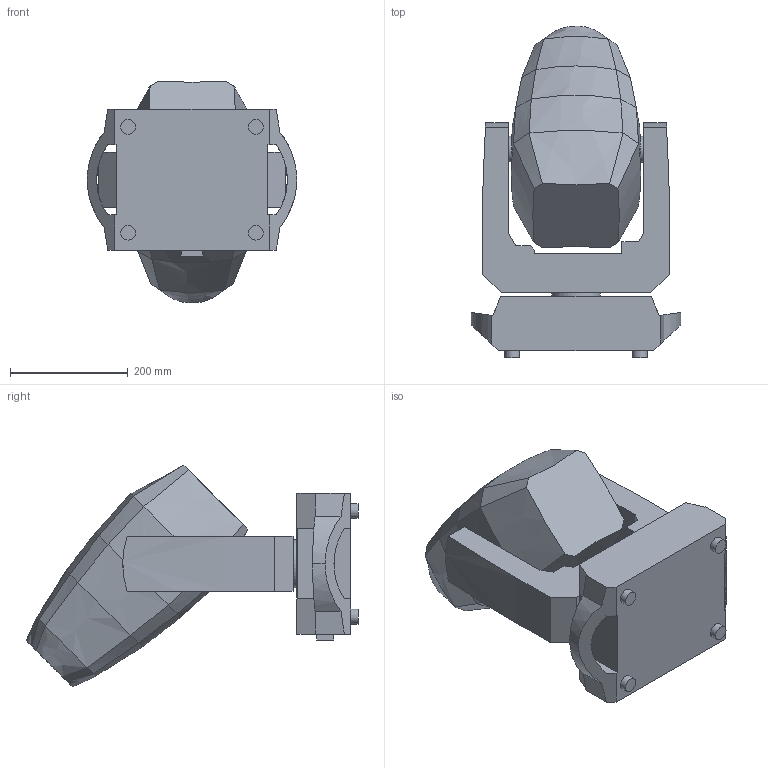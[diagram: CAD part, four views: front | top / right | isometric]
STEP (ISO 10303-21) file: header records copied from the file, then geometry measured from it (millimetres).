
FILE_DESCRIPTION(/* description */ (''),/* implementation_level */ '2;1');
FILE_NAME(/* name */ 'Rogue R3E Spot_45_3D.stp',/* time_stamp */ '2024-04-09T17:05:52-04:00',/* author */ ('dgooch'),/* organization */ (''),/* preprocessor_version */ 'ST-DEVELOPER v20',/* originating_system */ 'Autodesk Inventor 2024',/* authorisation */ '');
FILE_SCHEMA (('AUTOMOTIVE_DESIGN { 1 0 10303 214 3 1 1 }'));
Length unit declared in the file: millimetre
Products named in the file (4): Rogue R3E Spot_0; Base (1); Arm (1); Head (1)
Assembly tree (3 placements, depth 2):
  Rogue R3E Spot_0
    Base (1)
    Arm (1)
    Head (1)
Bounding box: 356 x 564.46 x 377.43 mm (x, y, z)
Volume: 22567442 mm3; surface area: 808481.1 mm2
Topology: 3 solids, 3 shells, 118 faces, 282 edges, 178 vertices
Faces by surface type: plane 55, bspline 40, cylinder 22, cone 1
Full cylindrical faces by diameter (mm): 25 x4, 44 x4, 82 x2
Entity records: 4274 total; most frequent: CARTESIAN_POINT 1468, ORIENTED_EDGE 564, DIRECTION 494, EDGE_CURVE 282, LINE 206, VECTOR 206, VERTEX_POINT 178, AXIS2_PLACEMENT_3D 144
